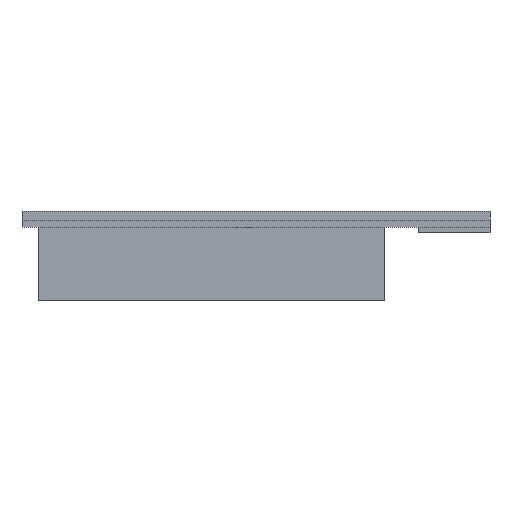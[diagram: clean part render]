
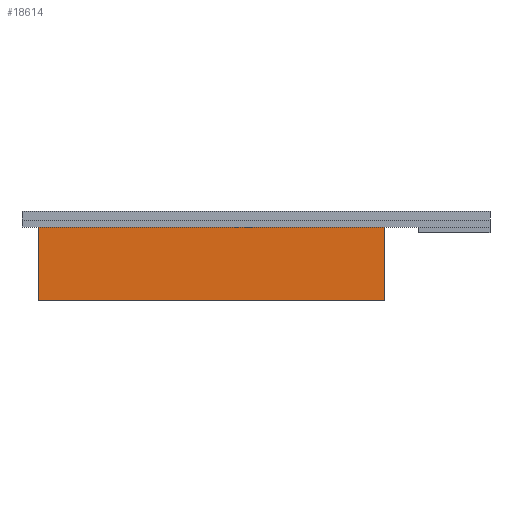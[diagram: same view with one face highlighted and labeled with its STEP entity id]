
A CAD part, left-side view. The second image highlights one B-rep face of the part: STEP entity #18614.
In plain terms, the highlighted planar face has unit normal (-1, 0, 0).
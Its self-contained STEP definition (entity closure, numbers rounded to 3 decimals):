
#159 = PLANE('',#160);
#160 = AXIS2_PLACEMENT_3D('',#161,#162,#163);
#161 = CARTESIAN_POINT('',(-0.3,-52.15,10.6));
#162 = DIRECTION('',(0.,0.,1.));
#163 = DIRECTION('',(1.,0.,0.));
#7767 = VERTEX_POINT('',#7768);
#7768 = CARTESIAN_POINT('',(-0.2,-40.,10.6));
#7781 = PLANE('',#7782);
#7782 = AXIS2_PLACEMENT_3D('',#7783,#7784,#7785);
#7783 = CARTESIAN_POINT('',(-0.2,-40.,1.9));
#7784 = DIRECTION('',(0.,1.,0.));
#7785 = DIRECTION('',(0.,0.,1.));
#7792 = EDGE_CURVE('',#7767,#7793,#7795,.T.);
#7793 = VERTEX_POINT('',#7794);
#7794 = CARTESIAN_POINT('',(-0.2,0.,10.6));
#7795 = SURFACE_CURVE('',#7796,(#7800,#7806),.PCURVE_S1.);
#7796 = LINE('',#7797,#7798);
#7797 = CARTESIAN_POINT('',(-0.2,-46.075,10.6));
#7798 = VECTOR('',#7799,1.);
#7799 = DIRECTION('',(0.,1.,0.));
#7800 = PCURVE('',#159,#7801);
#7801 = DEFINITIONAL_REPRESENTATION('',(#7802),#7805);
#7802 = B_SPLINE_CURVE_WITH_KNOTS('',1,(#7803,#7804),.UNSPECIFIED.,.F.,
  .F.,(2,2),(6.075,46.075),.PIECEWISE_BEZIER_KNOTS.);
#7803 = CARTESIAN_POINT('',(0.1,12.15));
#7804 = CARTESIAN_POINT('',(0.1,52.15));
#7805 = ( GEOMETRIC_REPRESENTATION_CONTEXT(2) 
PARAMETRIC_REPRESENTATION_CONTEXT() REPRESENTATION_CONTEXT('2D SPACE',''
  ) );
#7806 = PCURVE('',#7807,#7812);
#7807 = PLANE('',#7808);
#7808 = AXIS2_PLACEMENT_3D('',#7809,#7810,#7811);
#7809 = CARTESIAN_POINT('',(-0.2,-40.,1.9));
#7810 = DIRECTION('',(1.,0.,0.));
#7811 = DIRECTION('',(0.,0.,1.));
#7812 = DEFINITIONAL_REPRESENTATION('',(#7813),#7816);
#7813 = B_SPLINE_CURVE_WITH_KNOTS('',1,(#7814,#7815),.UNSPECIFIED.,.F.,
  .F.,(2,2),(6.075,46.075),.PIECEWISE_BEZIER_KNOTS.);
#7814 = CARTESIAN_POINT('',(8.7,0.));
#7815 = CARTESIAN_POINT('',(8.7,-40.));
#7816 = ( GEOMETRIC_REPRESENTATION_CONTEXT(2) 
PARAMETRIC_REPRESENTATION_CONTEXT() REPRESENTATION_CONTEXT('2D SPACE',''
  ) );
#7833 = PLANE('',#7834);
#7834 = AXIS2_PLACEMENT_3D('',#7835,#7836,#7837);
#7835 = CARTESIAN_POINT('',(-0.2,0.,1.9));
#7836 = DIRECTION('',(0.,1.,0.));
#7837 = DIRECTION('',(0.,0.,1.));
#18517 = VERTEX_POINT('',#18518);
#18518 = CARTESIAN_POINT('',(-0.2,-40.,1.9));
#18532 = PLANE('',#18533);
#18533 = AXIS2_PLACEMENT_3D('',#18534,#18535,#18536);
#18534 = CARTESIAN_POINT('',(-0.2,-40.,1.9));
#18535 = DIRECTION('',(0.,0.,1.));
#18536 = DIRECTION('',(1.,0.,0.));
#18544 = EDGE_CURVE('',#18517,#7767,#18545,.T.);
#18545 = SURFACE_CURVE('',#18546,(#18550,#18557),.PCURVE_S1.);
#18546 = LINE('',#18547,#18548);
#18547 = CARTESIAN_POINT('',(-0.2,-40.,1.9));
#18548 = VECTOR('',#18549,1.);
#18549 = DIRECTION('',(0.,0.,1.));
#18550 = PCURVE('',#7781,#18551);
#18551 = DEFINITIONAL_REPRESENTATION('',(#18552),#18556);
#18552 = LINE('',#18553,#18554);
#18553 = CARTESIAN_POINT('',(0.,0.));
#18554 = VECTOR('',#18555,1.);
#18555 = DIRECTION('',(1.,0.));
#18556 = ( GEOMETRIC_REPRESENTATION_CONTEXT(2) 
PARAMETRIC_REPRESENTATION_CONTEXT() REPRESENTATION_CONTEXT('2D SPACE',''
  ) );
#18557 = PCURVE('',#7807,#18558);
#18558 = DEFINITIONAL_REPRESENTATION('',(#18559),#18563);
#18559 = LINE('',#18560,#18561);
#18560 = CARTESIAN_POINT('',(0.,0.));
#18561 = VECTOR('',#18562,1.);
#18562 = DIRECTION('',(1.,0.));
#18563 = ( GEOMETRIC_REPRESENTATION_CONTEXT(2) 
PARAMETRIC_REPRESENTATION_CONTEXT() REPRESENTATION_CONTEXT('2D SPACE',''
  ) );
#18614 = ADVANCED_FACE('',(#18615),#7807,.F.);
#18615 = FACE_BOUND('',#18616,.F.);
#18616 = EDGE_LOOP('',(#18617,#18618,#18641,#18662));
#18617 = ORIENTED_EDGE('',*,*,#18544,.F.);
#18618 = ORIENTED_EDGE('',*,*,#18619,.T.);
#18619 = EDGE_CURVE('',#18517,#18620,#18622,.T.);
#18620 = VERTEX_POINT('',#18621);
#18621 = CARTESIAN_POINT('',(-0.2,0.,1.9));
#18622 = SURFACE_CURVE('',#18623,(#18627,#18634),.PCURVE_S1.);
#18623 = LINE('',#18624,#18625);
#18624 = CARTESIAN_POINT('',(-0.2,-40.,1.9));
#18625 = VECTOR('',#18626,1.);
#18626 = DIRECTION('',(0.,1.,0.));
#18627 = PCURVE('',#7807,#18628);
#18628 = DEFINITIONAL_REPRESENTATION('',(#18629),#18633);
#18629 = LINE('',#18630,#18631);
#18630 = CARTESIAN_POINT('',(0.,0.));
#18631 = VECTOR('',#18632,1.);
#18632 = DIRECTION('',(0.,-1.));
#18633 = ( GEOMETRIC_REPRESENTATION_CONTEXT(2) 
PARAMETRIC_REPRESENTATION_CONTEXT() REPRESENTATION_CONTEXT('2D SPACE',''
  ) );
#18634 = PCURVE('',#18532,#18635);
#18635 = DEFINITIONAL_REPRESENTATION('',(#18636),#18640);
#18636 = LINE('',#18637,#18638);
#18637 = CARTESIAN_POINT('',(0.,0.));
#18638 = VECTOR('',#18639,1.);
#18639 = DIRECTION('',(0.,1.));
#18640 = ( GEOMETRIC_REPRESENTATION_CONTEXT(2) 
PARAMETRIC_REPRESENTATION_CONTEXT() REPRESENTATION_CONTEXT('2D SPACE',''
  ) );
#18641 = ORIENTED_EDGE('',*,*,#18642,.T.);
#18642 = EDGE_CURVE('',#18620,#7793,#18643,.T.);
#18643 = SURFACE_CURVE('',#18644,(#18648,#18655),.PCURVE_S1.);
#18644 = LINE('',#18645,#18646);
#18645 = CARTESIAN_POINT('',(-0.2,0.,1.9));
#18646 = VECTOR('',#18647,1.);
#18647 = DIRECTION('',(0.,0.,1.));
#18648 = PCURVE('',#7807,#18649);
#18649 = DEFINITIONAL_REPRESENTATION('',(#18650),#18654);
#18650 = LINE('',#18651,#18652);
#18651 = CARTESIAN_POINT('',(0.,-40.));
#18652 = VECTOR('',#18653,1.);
#18653 = DIRECTION('',(1.,0.));
#18654 = ( GEOMETRIC_REPRESENTATION_CONTEXT(2) 
PARAMETRIC_REPRESENTATION_CONTEXT() REPRESENTATION_CONTEXT('2D SPACE',''
  ) );
#18655 = PCURVE('',#7833,#18656);
#18656 = DEFINITIONAL_REPRESENTATION('',(#18657),#18661);
#18657 = LINE('',#18658,#18659);
#18658 = CARTESIAN_POINT('',(0.,0.));
#18659 = VECTOR('',#18660,1.);
#18660 = DIRECTION('',(1.,0.));
#18661 = ( GEOMETRIC_REPRESENTATION_CONTEXT(2) 
PARAMETRIC_REPRESENTATION_CONTEXT() REPRESENTATION_CONTEXT('2D SPACE',''
  ) );
#18662 = ORIENTED_EDGE('',*,*,#7792,.F.);
